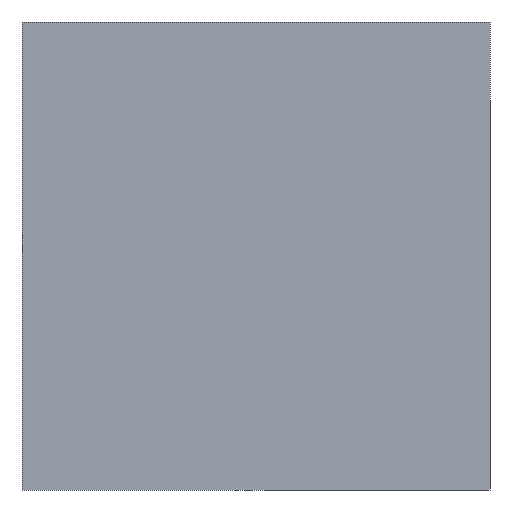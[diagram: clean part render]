
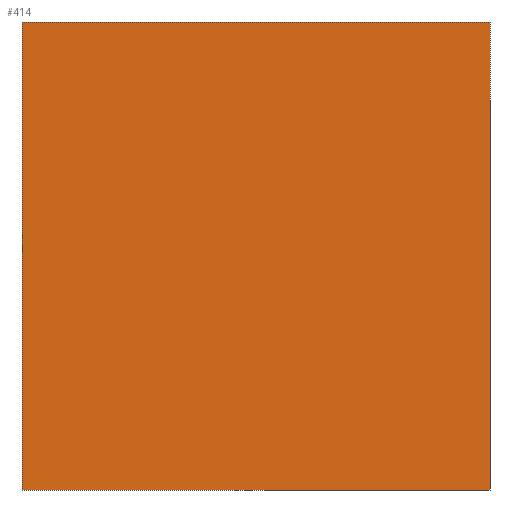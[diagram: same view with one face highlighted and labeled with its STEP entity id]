
A CAD part, front view. The second image highlights one B-rep face of the part: STEP entity #414.
In plain terms, the highlighted planar face has unit normal (0, -1, 0).
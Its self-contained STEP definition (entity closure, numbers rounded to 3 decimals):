
#22 = VERTEX_POINT('',#23);
#23 = CARTESIAN_POINT('',(100.,-176.,17.));
#32 = PLANE('',#33);
#33 = AXIS2_PLACEMENT_3D('',#34,#35,#36);
#34 = CARTESIAN_POINT('',(100.,-180.,0.));
#35 = DIRECTION('',(1.,0.,-0.));
#36 = DIRECTION('',(0.,0.,1.));
#44 = PLANE('',#45);
#45 = AXIS2_PLACEMENT_3D('',#46,#47,#48);
#46 = CARTESIAN_POINT('',(100.,-180.,17.));
#47 = DIRECTION('',(0.,0.,1.));
#48 = DIRECTION('',(1.,0.,-0.));
#56 = EDGE_CURVE('',#57,#22,#59,.T.);
#57 = VERTEX_POINT('',#58);
#58 = CARTESIAN_POINT('',(100.,-176.,0.));
#59 = SURFACE_CURVE('',#60,(#64,#70),.PCURVE_S1.);
#60 = LINE('',#61,#62);
#61 = CARTESIAN_POINT('',(100.,-176.,2.));
#62 = VECTOR('',#63,1.);
#63 = DIRECTION('',(0.,-0.,1.));
#64 = PCURVE('',#32,#65);
#65 = DEFINITIONAL_REPRESENTATION('',(#66),#69);
#66 = B_SPLINE_CURVE_WITH_KNOTS('',1,(#67,#68),.UNSPECIFIED.,.F.,.F.,(2,
    2),(-2.,15.),.PIECEWISE_BEZIER_KNOTS.);
#67 = CARTESIAN_POINT('',(0.,-4.));
#68 = CARTESIAN_POINT('',(17.,-4.));
#69 = ( GEOMETRIC_REPRESENTATION_CONTEXT(2) 
PARAMETRIC_REPRESENTATION_CONTEXT() REPRESENTATION_CONTEXT('2D SPACE',''
  ) );
#70 = PCURVE('',#71,#76);
#71 = PLANE('',#72);
#72 = AXIS2_PLACEMENT_3D('',#73,#74,#75);
#73 = CARTESIAN_POINT('',(-192.,-176.,4.));
#74 = DIRECTION('',(0.,1.,0.));
#75 = DIRECTION('',(1.,0.,0.));
#76 = DEFINITIONAL_REPRESENTATION('',(#77),#80);
#77 = B_SPLINE_CURVE_WITH_KNOTS('',1,(#78,#79),.UNSPECIFIED.,.F.,.F.,(2,
    2),(-2.,15.),.PIECEWISE_BEZIER_KNOTS.);
#78 = CARTESIAN_POINT('',(292.,4.));
#79 = CARTESIAN_POINT('',(292.,-13.));
#80 = ( GEOMETRIC_REPRESENTATION_CONTEXT(2) 
PARAMETRIC_REPRESENTATION_CONTEXT() REPRESENTATION_CONTEXT('2D SPACE',''
  ) );
#98 = PLANE('',#99);
#99 = AXIS2_PLACEMENT_3D('',#100,#101,#102);
#100 = CARTESIAN_POINT('',(100.,-180.,0.));
#101 = DIRECTION('',(0.,0.,1.));
#102 = DIRECTION('',(1.,0.,-0.));
#140 = EDGE_CURVE('',#141,#22,#143,.T.);
#141 = VERTEX_POINT('',#142);
#142 = CARTESIAN_POINT('',(117.,-176.,17.));
#143 = SURFACE_CURVE('',#144,(#148,#154),.PCURVE_S1.);
#144 = LINE('',#145,#146);
#145 = CARTESIAN_POINT('',(-46.,-176.,17.));
#146 = VECTOR('',#147,1.);
#147 = DIRECTION('',(-1.,0.,0.));
#148 = PCURVE('',#44,#149);
#149 = DEFINITIONAL_REPRESENTATION('',(#150),#153);
#150 = B_SPLINE_CURVE_WITH_KNOTS('',1,(#151,#152),.UNSPECIFIED.,.F.,.F.,
  (2,2),(-163.,-146.),.PIECEWISE_BEZIER_KNOTS.);
#151 = CARTESIAN_POINT('',(17.,4.));
#152 = CARTESIAN_POINT('',(0.,4.));
#153 = ( GEOMETRIC_REPRESENTATION_CONTEXT(2) 
PARAMETRIC_REPRESENTATION_CONTEXT() REPRESENTATION_CONTEXT('2D SPACE',''
  ) );
#154 = PCURVE('',#71,#155);
#155 = DEFINITIONAL_REPRESENTATION('',(#156),#159);
#156 = B_SPLINE_CURVE_WITH_KNOTS('',1,(#157,#158),.UNSPECIFIED.,.F.,.F.,
  (2,2),(-163.,-146.),.PIECEWISE_BEZIER_KNOTS.);
#157 = CARTESIAN_POINT('',(309.,-13.));
#158 = CARTESIAN_POINT('',(292.,-13.));
#159 = ( GEOMETRIC_REPRESENTATION_CONTEXT(2) 
PARAMETRIC_REPRESENTATION_CONTEXT() REPRESENTATION_CONTEXT('2D SPACE',''
  ) );
#177 = PLANE('',#178);
#178 = AXIS2_PLACEMENT_3D('',#179,#180,#181);
#179 = CARTESIAN_POINT('',(117.,-180.,0.));
#180 = DIRECTION('',(1.,0.,-0.));
#181 = DIRECTION('',(0.,0.,1.));
#263 = EDGE_CURVE('',#57,#264,#266,.T.);
#264 = VERTEX_POINT('',#265);
#265 = CARTESIAN_POINT('',(117.,-176.,0.));
#266 = SURFACE_CURVE('',#267,(#271,#278),.PCURVE_S1.);
#267 = LINE('',#268,#269);
#268 = CARTESIAN_POINT('',(-96.,-176.,0.));
#269 = VECTOR('',#270,1.);
#270 = DIRECTION('',(1.,0.,0.));
#271 = PCURVE('',#98,#272);
#272 = DEFINITIONAL_REPRESENTATION('',(#273),#277);
#273 = LINE('',#274,#275);
#274 = CARTESIAN_POINT('',(-196.,4.));
#275 = VECTOR('',#276,1.);
#276 = DIRECTION('',(1.,0.));
#277 = ( GEOMETRIC_REPRESENTATION_CONTEXT(2) 
PARAMETRIC_REPRESENTATION_CONTEXT() REPRESENTATION_CONTEXT('2D SPACE',''
  ) );
#278 = PCURVE('',#71,#279);
#279 = DEFINITIONAL_REPRESENTATION('',(#280),#284);
#280 = LINE('',#281,#282);
#281 = CARTESIAN_POINT('',(96.,4.));
#282 = VECTOR('',#283,1.);
#283 = DIRECTION('',(1.,0.));
#284 = ( GEOMETRIC_REPRESENTATION_CONTEXT(2) 
PARAMETRIC_REPRESENTATION_CONTEXT() REPRESENTATION_CONTEXT('2D SPACE',''
  ) );
#414 = ADVANCED_FACE('',(#415),#71,.F.);
#415 = FACE_BOUND('',#416,.F.);
#416 = EDGE_LOOP('',(#417,#438,#439,#440));
#417 = ORIENTED_EDGE('',*,*,#418,.F.);
#418 = EDGE_CURVE('',#264,#141,#419,.T.);
#419 = SURFACE_CURVE('',#420,(#424,#431),.PCURVE_S1.);
#420 = LINE('',#421,#422);
#421 = CARTESIAN_POINT('',(117.,-176.,0.));
#422 = VECTOR('',#423,1.);
#423 = DIRECTION('',(0.,0.,1.));
#424 = PCURVE('',#71,#425);
#425 = DEFINITIONAL_REPRESENTATION('',(#426),#430);
#426 = LINE('',#427,#428);
#427 = CARTESIAN_POINT('',(309.,4.));
#428 = VECTOR('',#429,1.);
#429 = DIRECTION('',(0.,-1.));
#430 = ( GEOMETRIC_REPRESENTATION_CONTEXT(2) 
PARAMETRIC_REPRESENTATION_CONTEXT() REPRESENTATION_CONTEXT('2D SPACE',''
  ) );
#431 = PCURVE('',#177,#432);
#432 = DEFINITIONAL_REPRESENTATION('',(#433),#437);
#433 = LINE('',#434,#435);
#434 = CARTESIAN_POINT('',(0.,-4.));
#435 = VECTOR('',#436,1.);
#436 = DIRECTION('',(1.,0.));
#437 = ( GEOMETRIC_REPRESENTATION_CONTEXT(2) 
PARAMETRIC_REPRESENTATION_CONTEXT() REPRESENTATION_CONTEXT('2D SPACE',''
  ) );
#438 = ORIENTED_EDGE('',*,*,#263,.F.);
#439 = ORIENTED_EDGE('',*,*,#56,.T.);
#440 = ORIENTED_EDGE('',*,*,#140,.F.);
